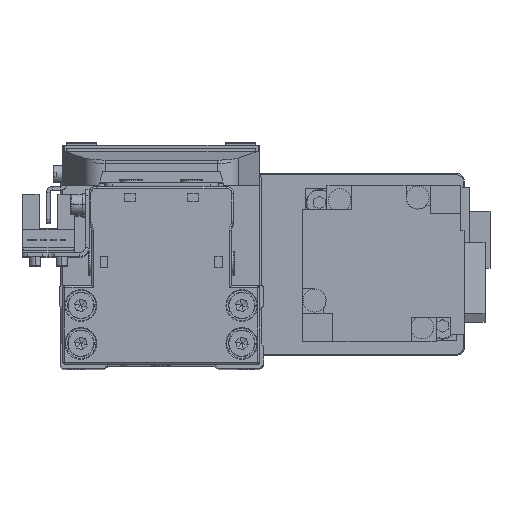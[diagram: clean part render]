
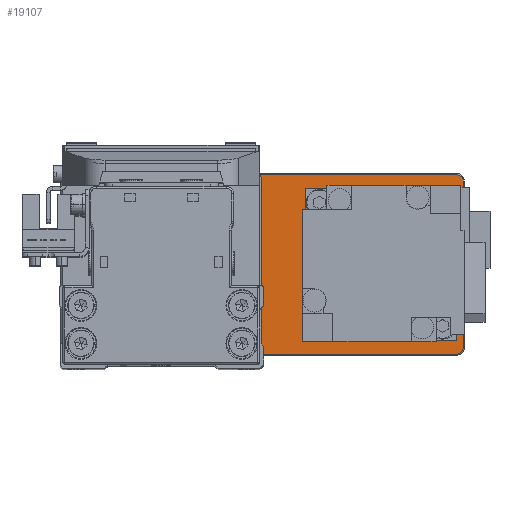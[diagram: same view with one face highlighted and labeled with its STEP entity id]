
A CAD part, top view. The second image highlights one B-rep face of the part: STEP entity #19107.
In plain terms, the highlighted planar face has unit normal (0, 0, 1).
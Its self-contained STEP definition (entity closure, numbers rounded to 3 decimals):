
#46 = ORIENTED_EDGE ( 'NONE', *, *, #10121, .T. ) ;
#542 = ORIENTED_EDGE ( 'NONE', *, *, #11595, .T. ) ;
#685 = DIRECTION ( 'NONE',  ( 0., 1., 0. ) ) ;
#1264 = ORIENTED_EDGE ( 'NONE', *, *, #29140, .T. ) ;
#1318 = VERTEX_POINT ( 'NONE', #36306 ) ;
#1496 = DIRECTION ( 'NONE',  ( 0., -1., 0. ) ) ;
#1511 = CARTESIAN_POINT ( 'NONE',  ( 51.7, 22., 5. ) ) ;
#1751 = FACE_OUTER_BOUND ( 'NONE', #4824, .T. ) ;
#2078 = VERTEX_POINT ( 'NONE', #18822 ) ;
#2260 = EDGE_CURVE ( 'NONE', #17708, #19756, #39106, .T. ) ;
#2948 = AXIS2_PLACEMENT_3D ( 'NONE', #13121, #25352, #37608 ) ;
#3013 = CARTESIAN_POINT ( 'NONE',  ( -50., 23.7, 5. ) ) ;
#3595 = CARTESIAN_POINT ( 'NONE',  ( -51.7, -22., 5. ) ) ;
#3730 = CIRCLE ( 'NONE', #26172, 1.7 ) ;
#4824 = EDGE_LOOP ( 'NONE', ( #12898, #20055, #46, #5979, #25918, #1264, #19979, #11903 ) ) ;
#4908 = CARTESIAN_POINT ( 'NONE',  ( -28., 0., 5. ) ) ;
#5979 = ORIENTED_EDGE ( 'NONE', *, *, #2260, .T. ) ;
#6385 = VERTEX_POINT ( 'NONE', #26545 ) ;
#6519 = CARTESIAN_POINT ( 'NONE',  ( -50., 23.7, 5. ) ) ;
#6819 = AXIS2_PLACEMENT_3D ( 'NONE', #24563, #36828, #9304 ) ;
#7503 = CIRCLE ( 'NONE', #29977, 10.3 ) ;
#8224 = EDGE_CURVE ( 'NONE', #1318, #32304, #3730, .T. ) ;
#8417 = VECTOR ( 'NONE', #33814, 1000. ) ;
#8732 = DIRECTION ( 'NONE',  ( 0., 0., -1. ) ) ;
#9078 = CARTESIAN_POINT ( 'NONE',  ( -51.7, 22., 5. ) ) ;
#9304 = DIRECTION ( 'NONE',  ( 1., 0., 0. ) ) ;
#9322 = LINE ( 'NONE', #21564, #8417 ) ;
#9460 = VERTEX_POINT ( 'NONE', #9078 ) ;
#9903 = ORIENTED_EDGE ( 'NONE', *, *, #39146, .T. ) ;
#10121 = EDGE_CURVE ( 'NONE', #32304, #17708, #15987, .T. ) ;
#10443 = DIRECTION ( 'NONE',  ( 0., 0., 1. ) ) ;
#10582 = EDGE_CURVE ( 'NONE', #35915, #2078, #20257, .T. ) ;
#10637 = CARTESIAN_POINT ( 'NONE',  ( 30., 0., 5. ) ) ;
#10950 = CARTESIAN_POINT ( 'NONE',  ( 50., 22., 5. ) ) ;
#11011 = DIRECTION ( 'NONE',  ( 1., 0., 0. ) ) ;
#11493 = DIRECTION ( 'NONE',  ( 0., 0., 1. ) ) ;
#11595 = EDGE_CURVE ( 'NONE', #24169, #6385, #7503, .T. ) ;
#11903 = ORIENTED_EDGE ( 'NONE', *, *, #10582, .T. ) ;
#12120 = ORIENTED_EDGE ( 'NONE', *, *, #33243, .T. ) ;
#12346 = CARTESIAN_POINT ( 'NONE',  ( -17.7, 0., 5. ) ) ;
#12446 = AXIS2_PLACEMENT_3D ( 'NONE', #26267, #38526, #11011 ) ;
#12777 = AXIS2_PLACEMENT_3D ( 'NONE', #10637, #22884, #35140 ) ;
#12898 = ORIENTED_EDGE ( 'NONE', *, *, #38424, .T. ) ;
#12903 = CARTESIAN_POINT ( 'NONE',  ( 50., 23.7, 5. ) ) ;
#12947 = EDGE_CURVE ( 'NONE', #32220, #39518, #37118, .T. ) ;
#13121 = CARTESIAN_POINT ( 'NONE',  ( -50., -22., 5. ) ) ;
#14029 = PLANE ( 'NONE',  #12446 ) ;
#14488 = CARTESIAN_POINT ( 'NONE',  ( 17.2, 0., 5. ) ) ;
#15293 = DIRECTION ( 'NONE',  ( -1., 0., 0. ) ) ;
#15987 = LINE ( 'NONE', #28231, #25367 ) ;
#16575 = CARTESIAN_POINT ( 'NONE',  ( 42.8, 0., 5. ) ) ;
#16768 = LINE ( 'NONE', #29025, #18119 ) ;
#17033 = FACE_BOUND ( 'NONE', #33637, .T. ) ;
#17162 = DIRECTION ( 'NONE',  ( 0., 0., -1. ) ) ;
#17708 = VERTEX_POINT ( 'NONE', #1511 ) ;
#17892 = CARTESIAN_POINT ( 'NONE',  ( 51.7, -22., 5. ) ) ;
#18119 = VECTOR ( 'NONE', #1496, 1000. ) ;
#18554 = ORIENTED_EDGE ( 'NONE', *, *, #12947, .T. ) ;
#18752 = AXIS2_PLACEMENT_3D ( 'NONE', #37957, #10443, #22690 ) ;
#18822 = CARTESIAN_POINT ( 'NONE',  ( -50., -23.7, 5. ) ) ;
#19107 = ADVANCED_FACE ( 'NONE', ( #17033, #29285, #1751 ), #14029, .T. ) ;
#19756 = VERTEX_POINT ( 'NONE', #12903 ) ;
#19766 = AXIS2_PLACEMENT_3D ( 'NONE', #36257, #8732, #20975 ) ;
#19979 = ORIENTED_EDGE ( 'NONE', *, *, #23931, .T. ) ;
#20055 = ORIENTED_EDGE ( 'NONE', *, *, #8224, .T. ) ;
#20257 = CIRCLE ( 'NONE', #2948, 1.7 ) ;
#20975 = DIRECTION ( 'NONE',  ( 1., 0., 0. ) ) ;
#21355 = EDGE_CURVE ( 'NONE', #19756, #32828, #30552, .T. ) ;
#21564 = CARTESIAN_POINT ( 'NONE',  ( 50., -23.7, 5. ) ) ;
#21771 = AXIS2_PLACEMENT_3D ( 'NONE', #10950, #23191, #35456 ) ;
#22690 = DIRECTION ( 'NONE',  ( 1., 0., 0. ) ) ;
#22884 = DIRECTION ( 'NONE',  ( 0., 0., -1. ) ) ;
#23191 = DIRECTION ( 'NONE',  ( 0., 0., 1. ) ) ;
#23730 = DIRECTION ( 'NONE',  ( 1., 0., 0. ) ) ;
#23931 = EDGE_CURVE ( 'NONE', #9460, #35915, #16768, .T. ) ;
#24142 = CIRCLE ( 'NONE', #6819, 10.3 ) ;
#24169 = VERTEX_POINT ( 'NONE', #12346 ) ;
#24563 = CARTESIAN_POINT ( 'NONE',  ( -28., 0., 5. ) ) ;
#25352 = DIRECTION ( 'NONE',  ( 0., 0., 1. ) ) ;
#25367 = VECTOR ( 'NONE', #685, 1000. ) ;
#25918 = ORIENTED_EDGE ( 'NONE', *, *, #21355, .T. ) ;
#26172 = AXIS2_PLACEMENT_3D ( 'NONE', #39016, #11493, #23730 ) ;
#26267 = CARTESIAN_POINT ( 'NONE',  ( 0., 0., 5. ) ) ;
#26545 = CARTESIAN_POINT ( 'NONE',  ( -38.3, 0., 5. ) ) ;
#26633 = EDGE_LOOP ( 'NONE', ( #542, #12120 ) ) ;
#28231 = CARTESIAN_POINT ( 'NONE',  ( 51.7, 22., 5. ) ) ;
#29025 = CARTESIAN_POINT ( 'NONE',  ( -51.7, -22., 5. ) ) ;
#29140 = EDGE_CURVE ( 'NONE', #32828, #9460, #36077, .T. ) ;
#29285 = FACE_BOUND ( 'NONE', #26633, .T. ) ;
#29417 = DIRECTION ( 'NONE',  ( 1., 0., 0. ) ) ;
#29977 = AXIS2_PLACEMENT_3D ( 'NONE', #4908, #17162, #29417 ) ;
#30094 = CIRCLE ( 'NONE', #12777, 12.8 ) ;
#30552 = LINE ( 'NONE', #3013, #30882 ) ;
#30882 = VECTOR ( 'NONE', #15293, 1000. ) ;
#32220 = VERTEX_POINT ( 'NONE', #14488 ) ;
#32304 = VERTEX_POINT ( 'NONE', #17892 ) ;
#32828 = VERTEX_POINT ( 'NONE', #6519 ) ;
#33243 = EDGE_CURVE ( 'NONE', #6385, #24169, #24142, .T. ) ;
#33637 = EDGE_LOOP ( 'NONE', ( #9903, #18554 ) ) ;
#33814 = DIRECTION ( 'NONE',  ( 1., 0., 0. ) ) ;
#35140 = DIRECTION ( 'NONE',  ( 1., 0., 0. ) ) ;
#35456 = DIRECTION ( 'NONE',  ( 1., 0., 0. ) ) ;
#35915 = VERTEX_POINT ( 'NONE', #3595 ) ;
#36077 = CIRCLE ( 'NONE', #18752, 1.7 ) ;
#36257 = CARTESIAN_POINT ( 'NONE',  ( 30., 0., 5. ) ) ;
#36306 = CARTESIAN_POINT ( 'NONE',  ( 50., -23.7, 5. ) ) ;
#36828 = DIRECTION ( 'NONE',  ( 0., 0., -1. ) ) ;
#37118 = CIRCLE ( 'NONE', #19766, 12.8 ) ;
#37608 = DIRECTION ( 'NONE',  ( 1., 0., 0. ) ) ;
#37957 = CARTESIAN_POINT ( 'NONE',  ( -50., 22., 5. ) ) ;
#38424 = EDGE_CURVE ( 'NONE', #2078, #1318, #9322, .T. ) ;
#38526 = DIRECTION ( 'NONE',  ( 0., 0., 1. ) ) ;
#39016 = CARTESIAN_POINT ( 'NONE',  ( 50., -22., 5. ) ) ;
#39106 = CIRCLE ( 'NONE', #21771, 1.7 ) ;
#39146 = EDGE_CURVE ( 'NONE', #39518, #32220, #30094, .T. ) ;
#39518 = VERTEX_POINT ( 'NONE', #16575 ) ;
